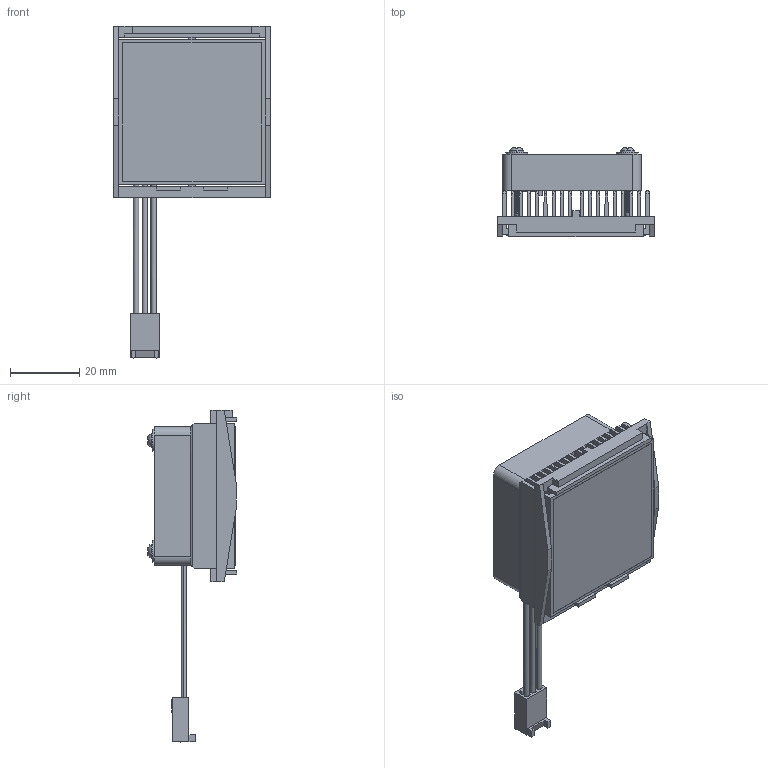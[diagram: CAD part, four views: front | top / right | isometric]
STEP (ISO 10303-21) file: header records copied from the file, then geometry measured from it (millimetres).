
FILE_DESCRIPTION (( 'STEP AP214' ), '1' );
FILE_NAME ('FI42.5-1.7+O.STEP', '2023-03-08T17:33:23', ( '' ), ( '' ), 'SwSTEP 2.0', 'SolidWorks 2020', '' );
FILE_SCHEMA (( 'AUTOMOTIVE_DESIGN' ));
Length unit declared in the file: millimetre
Products named in the file (1): FI42.5-1.7+O
Bounding box: 45.2 x 25.8 x 95.8 mm (x, y, z)
Volume: 21051.6 mm3; surface area: 35704.6 mm2
Topology: 12 solids, 12 shells, 1055 faces, 3071 edges, 2040 vertices
Faces by surface type: cylinder 454, plane 355, bspline 194, cone 36, sphere 8, torus 8
Entity records: 57443 total; most frequent: CARTESIAN_POINT 21595, ORIENTED_EDGE 6142, DIRECTION 3967, EDGE_CURVE 3071, VERTEX_POINT 2040, VECTOR 1495, LINE 1495, AXIS2_PLACEMENT_3D 1236
